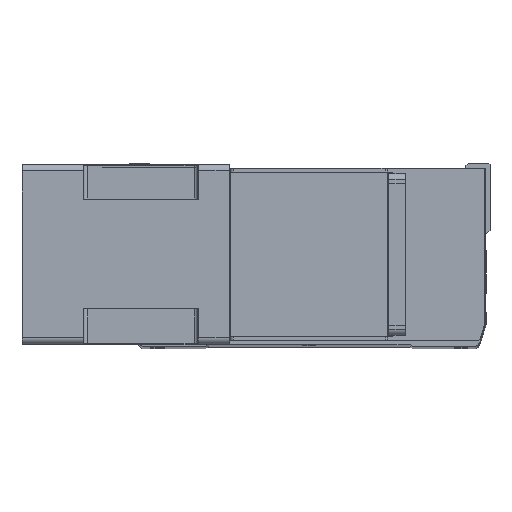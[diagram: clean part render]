
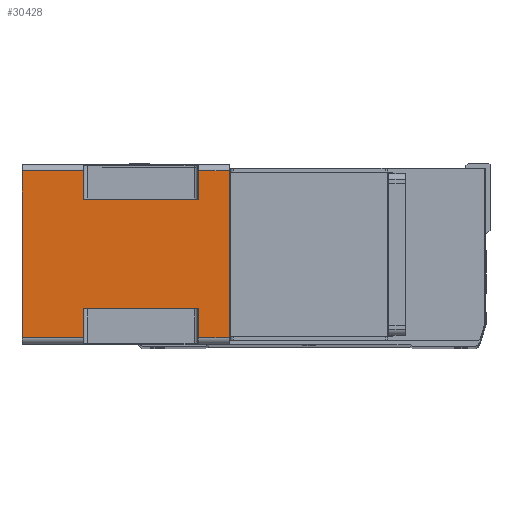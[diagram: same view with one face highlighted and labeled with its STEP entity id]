
A CAD part, top view. The second image highlights one B-rep face of the part: STEP entity #30428.
In plain terms, the highlighted planar face has unit normal (0, 0, 1) as drawn and (-1, 0, 0) by its records, which use the part's own axes.
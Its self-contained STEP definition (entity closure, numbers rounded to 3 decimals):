
#340 = VECTOR ( 'NONE', #10661, 1000. ) ;
#473 = CARTESIAN_POINT ( 'NONE',  ( -71., -43., -115.5 ) ) ;
#2198 = ORIENTED_EDGE ( 'NONE', *, *, #30025, .T. ) ;
#2963 = CARTESIAN_POINT ( 'NONE',  ( -71., 43., -24.5 ) ) ;
#3092 = EDGE_CURVE ( 'NONE', #24743, #32755, #39034, .T. ) ;
#3495 = DIRECTION ( 'NONE',  ( 0., -1., 0. ) ) ;
#3668 = ORIENTED_EDGE ( 'NONE', *, *, #31129, .T. ) ;
#3762 = VECTOR ( 'NONE', #3495, 1000. ) ;
#3772 = ORIENTED_EDGE ( 'NONE', *, *, #31743, .F. ) ;
#3774 = CARTESIAN_POINT ( 'NONE',  ( -71., -66., -24.5 ) ) ;
#4528 = VECTOR ( 'NONE', #18868, 1000. ) ;
#5616 = CARTESIAN_POINT ( 'NONE',  ( -71., 66., -164. ) ) ;
#5629 = VERTEX_POINT ( 'NONE', #37674 ) ;
#6772 = CARTESIAN_POINT ( 'NONE',  ( -71., 66., -115.5 ) ) ;
#7571 = ORIENTED_EDGE ( 'NONE', *, *, #9737, .T. ) ;
#7761 = EDGE_CURVE ( 'NONE', #13091, #32246, #19260, .T. ) ;
#8150 = LINE ( 'NONE', #13696, #17105 ) ;
#9737 = EDGE_CURVE ( 'NONE', #12875, #19547, #37422, .T. ) ;
#10014 = DIRECTION ( 'NONE',  ( 0., 1., 0. ) ) ;
#10300 = DIRECTION ( 'NONE',  ( 0., 1., 0. ) ) ;
#10661 = DIRECTION ( 'NONE',  ( 0., -1., 0. ) ) ;
#10676 = DIRECTION ( 'NONE',  ( 0., 0., 1. ) ) ;
#10836 = LINE ( 'NONE', #25646, #12406 ) ;
#11168 = VECTOR ( 'NONE', #13220, 1000. ) ;
#11618 = CARTESIAN_POINT ( 'NONE',  ( -71., 66., -24.5 ) ) ;
#11849 = CARTESIAN_POINT ( 'NONE',  ( -71., 66., 0. ) ) ;
#11995 = DIRECTION ( 'NONE',  ( 0., 0., 1. ) ) ;
#12406 = VECTOR ( 'NONE', #11995, 1000. ) ;
#12875 = VERTEX_POINT ( 'NONE', #17349 ) ;
#12987 = CARTESIAN_POINT ( 'NONE',  ( -71., -66., -164. ) ) ;
#13091 = VERTEX_POINT ( 'NONE', #11618 ) ;
#13220 = DIRECTION ( 'NONE',  ( 0., -1., 0. ) ) ;
#13248 = VERTEX_POINT ( 'NONE', #22836 ) ;
#13696 = CARTESIAN_POINT ( 'NONE',  ( -71., -66., 0. ) ) ;
#13865 = DIRECTION ( 'NONE',  ( 0., -1., 0. ) ) ;
#14327 = LINE ( 'NONE', #3774, #3762 ) ;
#14465 = LINE ( 'NONE', #20955, #33366 ) ;
#14548 = VERTEX_POINT ( 'NONE', #11849 ) ;
#14941 = ORIENTED_EDGE ( 'NONE', *, *, #20972, .T. ) ;
#15172 = ORIENTED_EDGE ( 'NONE', *, *, #19959, .T. ) ;
#15973 = VECTOR ( 'NONE', #26132, 1000. ) ;
#16375 = PLANE ( 'NONE',  #38545 ) ;
#16417 = LINE ( 'NONE', #16437, #11168 ) ;
#16437 = CARTESIAN_POINT ( 'NONE',  ( -71., -66., -164. ) ) ;
#16468 = VERTEX_POINT ( 'NONE', #41075 ) ;
#16936 = DIRECTION ( 'NONE',  ( -1., 0., 0. ) ) ;
#17065 = DIRECTION ( 'NONE',  ( 0., -1., 0. ) ) ;
#17105 = VECTOR ( 'NONE', #17065, 1000. ) ;
#17349 = CARTESIAN_POINT ( 'NONE',  ( -71., 43., -115.5 ) ) ;
#17490 = CARTESIAN_POINT ( 'NONE',  ( -71., -66., -164. ) ) ;
#17552 = CARTESIAN_POINT ( 'NONE',  ( -71., -66., 0. ) ) ;
#18581 = DIRECTION ( 'NONE',  ( 0., 0., 1. ) ) ;
#18868 = DIRECTION ( 'NONE',  ( 0., 0., 1. ) ) ;
#19154 = CARTESIAN_POINT ( 'NONE',  ( -71., 43., -164. ) ) ;
#19260 = LINE ( 'NONE', #24050, #340 ) ;
#19547 = VERTEX_POINT ( 'NONE', #6772 ) ;
#19959 = EDGE_CURVE ( 'NONE', #16468, #41012, #16417, .T. ) ;
#20748 = CARTESIAN_POINT ( 'NONE',  ( -71., -43., -115.5 ) ) ;
#20955 = CARTESIAN_POINT ( 'NONE',  ( -71., -66., -164. ) ) ;
#20972 = EDGE_CURVE ( 'NONE', #24743, #5629, #14327, .T. ) ;
#22515 = LINE ( 'NONE', #17490, #37158 ) ;
#22836 = CARTESIAN_POINT ( 'NONE',  ( -71., -66., -115.5 ) ) ;
#23479 = EDGE_CURVE ( 'NONE', #13091, #14548, #10836, .T. ) ;
#23742 = EDGE_CURVE ( 'NONE', #14548, #37235, #8150, .T. ) ;
#24050 = CARTESIAN_POINT ( 'NONE',  ( -71., 43., -24.5 ) ) ;
#24743 = VERTEX_POINT ( 'NONE', #37088 ) ;
#25020 = ORIENTED_EDGE ( 'NONE', *, *, #23479, .F. ) ;
#25399 = VECTOR ( 'NONE', #10300, 1000. ) ;
#25646 = CARTESIAN_POINT ( 'NONE',  ( -71., 66., -164. ) ) ;
#25870 = LINE ( 'NONE', #473, #36860 ) ;
#26132 = DIRECTION ( 'NONE',  ( 0., 0., -1. ) ) ;
#26807 = EDGE_LOOP ( 'NONE', ( #2198, #33820, #32007, #14941, #3668, #36462, #25020, #38150, #3772, #7571, #40040, #15172 ) ) ;
#27518 = VECTOR ( 'NONE', #18581, 1000. ) ;
#30025 = EDGE_CURVE ( 'NONE', #41012, #13248, #22515, .T. ) ;
#30398 = CARTESIAN_POINT ( 'NONE',  ( -71., -66., -115.5 ) ) ;
#30428 = ADVANCED_FACE ( 'NONE', ( #30878 ), #16375, .T. ) ;
#30878 = FACE_OUTER_BOUND ( 'NONE', #26807, .T. ) ;
#31129 = EDGE_CURVE ( 'NONE', #5629, #37235, #14465, .T. ) ;
#31743 = EDGE_CURVE ( 'NONE', #12875, #32246, #36418, .T. ) ;
#32007 = ORIENTED_EDGE ( 'NONE', *, *, #3092, .F. ) ;
#32246 = VERTEX_POINT ( 'NONE', #2963 ) ;
#32755 = VERTEX_POINT ( 'NONE', #20748 ) ;
#33366 = VECTOR ( 'NONE', #10676, 1000. ) ;
#33820 = ORIENTED_EDGE ( 'NONE', *, *, #34349, .T. ) ;
#34349 = EDGE_CURVE ( 'NONE', #13248, #32755, #25870, .T. ) ;
#36418 = LINE ( 'NONE', #19154, #27518 ) ;
#36462 = ORIENTED_EDGE ( 'NONE', *, *, #23742, .F. ) ;
#36860 = VECTOR ( 'NONE', #10014, 1000. ) ;
#36883 = CARTESIAN_POINT ( 'NONE',  ( -71., -66., -164. ) ) ;
#37062 = LINE ( 'NONE', #5616, #4528 ) ;
#37088 = CARTESIAN_POINT ( 'NONE',  ( -71., -43., -24.5 ) ) ;
#37158 = VECTOR ( 'NONE', #40886, 1000. ) ;
#37235 = VERTEX_POINT ( 'NONE', #17552 ) ;
#37422 = LINE ( 'NONE', #30398, #25399 ) ;
#37674 = CARTESIAN_POINT ( 'NONE',  ( -71., -66., -24.5 ) ) ;
#38150 = ORIENTED_EDGE ( 'NONE', *, *, #7761, .T. ) ;
#38545 = AXIS2_PLACEMENT_3D ( 'NONE', #36883, #16936, #13865 ) ;
#39034 = LINE ( 'NONE', #43205, #15973 ) ;
#40040 = ORIENTED_EDGE ( 'NONE', *, *, #40876, .F. ) ;
#40876 = EDGE_CURVE ( 'NONE', #16468, #19547, #37062, .T. ) ;
#40886 = DIRECTION ( 'NONE',  ( 0., 0., 1. ) ) ;
#41012 = VERTEX_POINT ( 'NONE', #12987 ) ;
#41075 = CARTESIAN_POINT ( 'NONE',  ( -71., 66., -164. ) ) ;
#43205 = CARTESIAN_POINT ( 'NONE',  ( -71., -43., -164. ) ) ;
